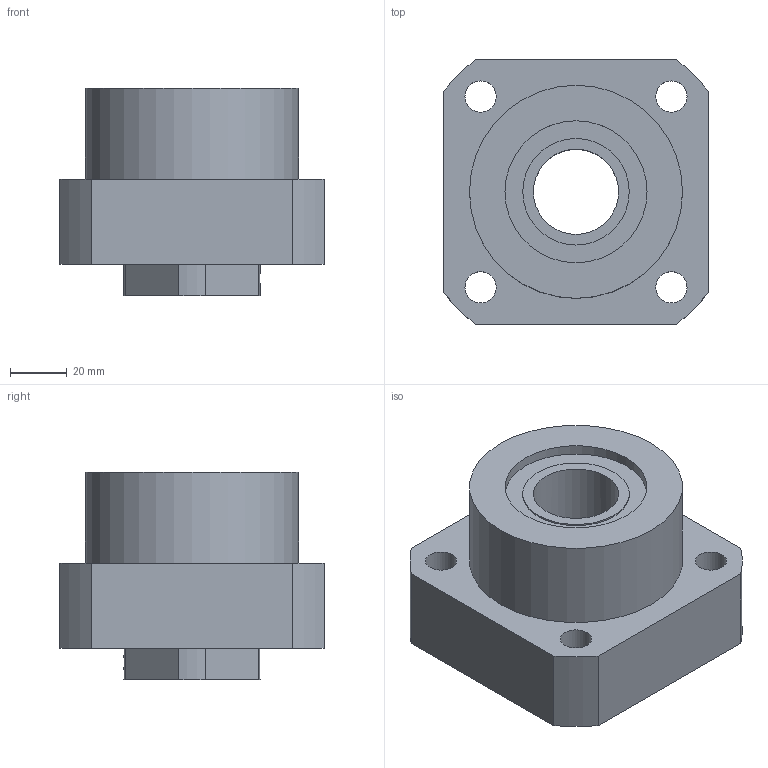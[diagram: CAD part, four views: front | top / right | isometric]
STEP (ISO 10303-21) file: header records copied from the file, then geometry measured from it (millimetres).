
FILE_DESCRIPTION(/* description */ (''),/* implementation_level */ '2;1');
FILE_NAME(/* name */ 'C:\Users\tenki620635\Desktop\官網\圖面\軸承座\3D\setp檔\FK30-Atype.stp',/* time_stamp */ '2020-12-18T19:54:01+08:00',/* author */ ('tenki620635'),/* organization */ (''),/* preprocessor_version */ 'ST-DEVELOPER v15.2',/* originating_system */ 'Autodesk Inventor 2014',/* authorisation */ '');
FILE_SCHEMA (('AUTOMOTIVE_DESIGN { 1 0 10303 214 3 1 1 }'));
Length unit declared in the file: millimetre
Products named in the file (1): FK30-Atype
Bounding box: 93 x 93 x 73 mm (x, y, z)
Volume: 330053.5 mm3; surface area: 50715.1 mm2
Topology: 1 solids, 1 shells, 46 faces, 106 edges, 72 vertices
Faces by surface type: cylinder 25, plane 21
Full cylindrical faces by diameter (mm): 4.917 x2, 11 x4, 17.5 x4, 30 x1, 37 x1, 37.5 x2, 50 x2, 75 x1
Entity records: 1375 total; most frequent: CARTESIAN_POINT 335, DIRECTION 218, ORIENTED_EDGE 168, AXIS2_PLACEMENT_3D 93, EDGE_LOOP 88, EDGE_CURVE 84, VERTEX_POINT 68, FACE_BOUND 54
